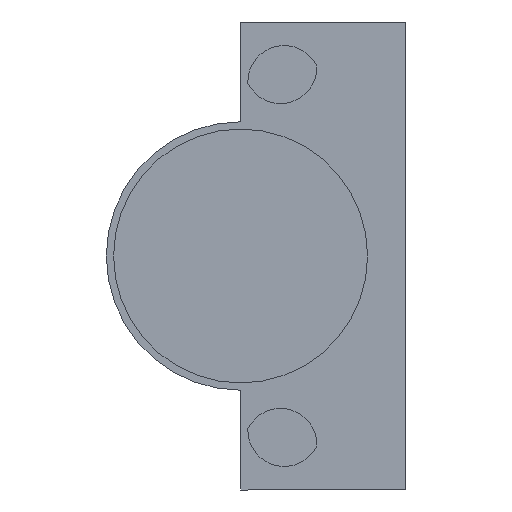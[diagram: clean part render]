
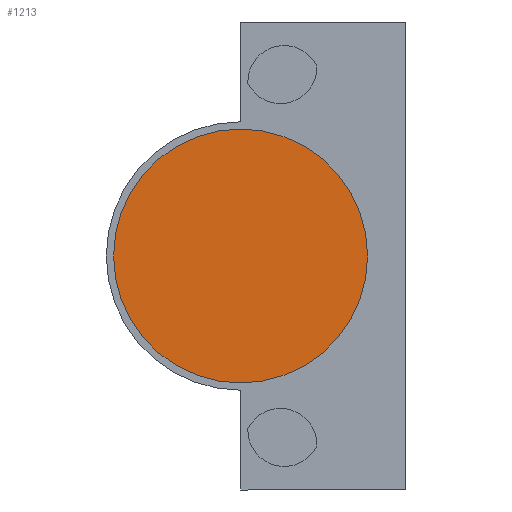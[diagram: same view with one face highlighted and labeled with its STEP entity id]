
A CAD part, front view. The second image highlights one B-rep face of the part: STEP entity #1213.
In plain terms, the highlighted planar face has unit normal (0, -1, 0).
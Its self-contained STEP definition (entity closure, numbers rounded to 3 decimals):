
#17 = CIRCLE ( 'NONE', #1434, 17.5 ) ;
#146 = CIRCLE ( 'NONE', #557, 17.5 ) ;
#237 = DIRECTION ( 'NONE',  ( 0., -1., 0. ) ) ;
#350 = EDGE_CURVE ( 'NONE', #1254, #1283, #146, .T. ) ;
#360 = DIRECTION ( 'NONE',  ( 0., -1., 0. ) ) ;
#369 = DIRECTION ( 'NONE',  ( 1., 0., 0. ) ) ;
#371 = PLANE ( 'NONE',  #1448 ) ;
#482 = ORIENTED_EDGE ( 'NONE', *, *, #350, .T. ) ;
#491 = CARTESIAN_POINT ( 'NONE',  ( 5.5, -51.1, 0. ) ) ;
#540 = EDGE_CURVE ( 'NONE', #1283, #1254, #17, .T. ) ;
#557 = AXIS2_PLACEMENT_3D ( 'NONE', #1426, #743, #1513 ) ;
#743 = DIRECTION ( 'NONE',  ( 0., -1., 0. ) ) ;
#831 = EDGE_LOOP ( 'NONE', ( #482, #1252 ) ) ;
#1028 = CARTESIAN_POINT ( 'NONE',  ( 5.5, -51.1, 0. ) ) ;
#1147 = DIRECTION ( 'NONE',  ( 1., 0., 0. ) ) ;
#1213 = ADVANCED_FACE ( 'NONE', ( #1530 ), #371, .T. ) ;
#1239 = CARTESIAN_POINT ( 'NONE',  ( 23., -51.1, 0. ) ) ;
#1252 = ORIENTED_EDGE ( 'NONE', *, *, #540, .T. ) ;
#1254 = VERTEX_POINT ( 'NONE', #1504 ) ;
#1283 = VERTEX_POINT ( 'NONE', #1239 ) ;
#1426 = CARTESIAN_POINT ( 'NONE',  ( 5.5, -51.1, 0. ) ) ;
#1434 = AXIS2_PLACEMENT_3D ( 'NONE', #1028, #237, #1147 ) ;
#1448 = AXIS2_PLACEMENT_3D ( 'NONE', #491, #360, #369 ) ;
#1504 = CARTESIAN_POINT ( 'NONE',  ( -12., -51.1, 0. ) ) ;
#1513 = DIRECTION ( 'NONE',  ( 1., 0., 0. ) ) ;
#1530 = FACE_OUTER_BOUND ( 'NONE', #831, .T. ) ;
